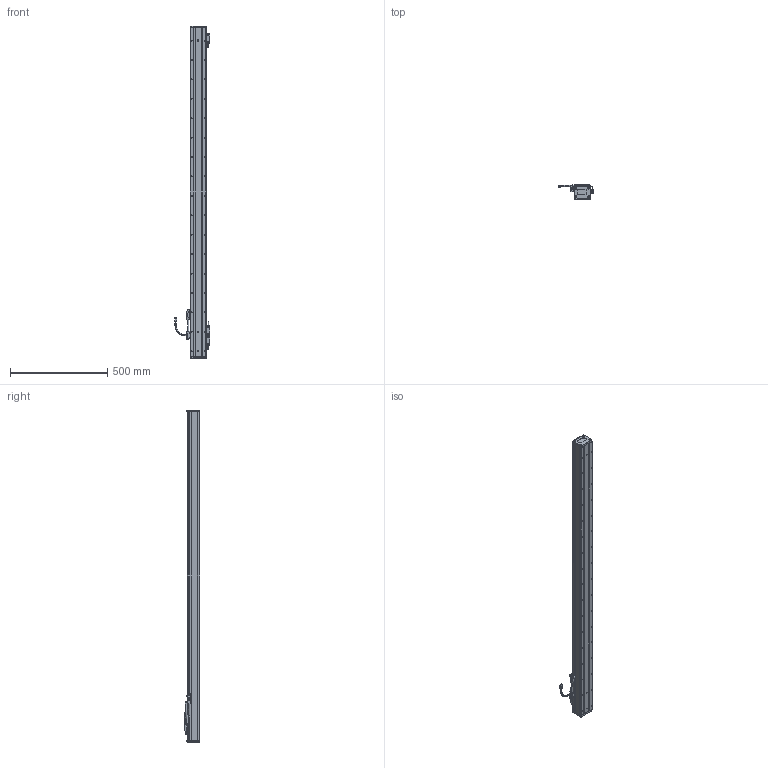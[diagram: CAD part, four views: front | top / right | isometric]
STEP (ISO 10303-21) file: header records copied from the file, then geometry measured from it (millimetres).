
FILE_DESCRIPTION(('Open CASCADE Model'),'2;1');
FILE_NAME('Open CASCADE Shape Model','2025-11-07T02:30:32',('Author'),( 'Open CASCADE'),'Open CASCADE STEP processor 7.6','Open CASCADE 7.6' ,'Unknown');
FILE_SCHEMA(('AUTOMOTIVE_DESIGN { 1 0 10303 214 1 1 1 1 }'));
Length unit declared in the file: millimetre
Products named in the file (24): Open CASCADE STEP translator 7.6 184; Open CASCADE STEP translator 7.6 184.1; Open CASCADE STEP translator 7.6 184.2; Open CASCADE STEP translator 7.6 184.3; Open CASCADE STEP translator 7.6 184.4; Open CASCADE STEP translator 7.6 184.5; Open CASCADE STEP translator 7.6 184.6; Open CASCADE STEP translator 7.6 184.7; Open CASCADE STEP translator 7.6 184.7.1; Open CASCADE STEP translator 7.6 184.7.1.1; Open CASCADE STEP translator 7.6 184.7.1.2; Open CASCADE STEP translator 7.6 184.8; Open CASCADE STEP translator 7.6 184.9; Open CASCADE STEP translator 7.6 184.10; Open CASCADE STEP translator 7.6 184.10.1; Open CASCADE STEP translator 7.6 184.10.1.1; Open CASCADE STEP translator 7.6 184.10.1.2; Open CASCADE STEP translator 7.6 184.10.1.3; Open CASCADE STEP translator 7.6 184.11; Open CASCADE STEP translator 7.6 184.12; Open CASCADE STEP translator 7.6 184.13; Open CASCADE STEP translator 7.6 184.14; Open CASCADE STEP translator 7.6 184.15; Open CASCADE STEP translator 7.6 184.16
Assembly tree (23 placements, depth 4):
  Open CASCADE STEP translator 7.6 184
    Open CASCADE STEP translator 7.6 184.1
    Open CASCADE STEP translator 7.6 184.2
    Open CASCADE STEP translator 7.6 184.3
    Open CASCADE STEP translator 7.6 184.4
    Open CASCADE STEP translator 7.6 184.5
    Open CASCADE STEP translator 7.6 184.6
    Open CASCADE STEP translator 7.6 184.7
      Open CASCADE STEP translator 7.6 184.7.1
        Open CASCADE STEP translator 7.6 184.7.1.1
        Open CASCADE STEP translator 7.6 184.7.1.2
    Open CASCADE STEP translator 7.6 184.8
    Open CASCADE STEP translator 7.6 184.9
    Open CASCADE STEP translator 7.6 184.10
      Open CASCADE STEP translator 7.6 184.10.1
        Open CASCADE STEP translator 7.6 184.10.1.1
        Open CASCADE STEP translator 7.6 184.10.1.2
        Open CASCADE STEP translator 7.6 184.10.1.3
    Open CASCADE STEP translator 7.6 184.11
    Open CASCADE STEP translator 7.6 184.12
    Open CASCADE STEP translator 7.6 184.13
    Open CASCADE STEP translator 7.6 184.14
    Open CASCADE STEP translator 7.6 184.15
    Open CASCADE STEP translator 7.6 184.16
Bounding box: 181.25 x 78 x 1710 mm (x, y, z)
Volume: 4986586.9 mm3; surface area: 1033933.4 mm2
Topology: 19 solids, 19 shells, 2010 faces, 5121 edges, 3261 vertices
Faces by surface type: plane 1096, cylinder 712, cone 112, torus 54, bspline 30, sphere 6
Entity records: 140931 total; most frequent: CARTESIAN_POINT 38597, DIRECTION 19369, LINE 11890, VECTOR 11890, ORIENTED_EDGE 10144, PCURVE 10144, DEFINITIONAL_REPRESENTATION 10144, EDGE_CURVE 5072
